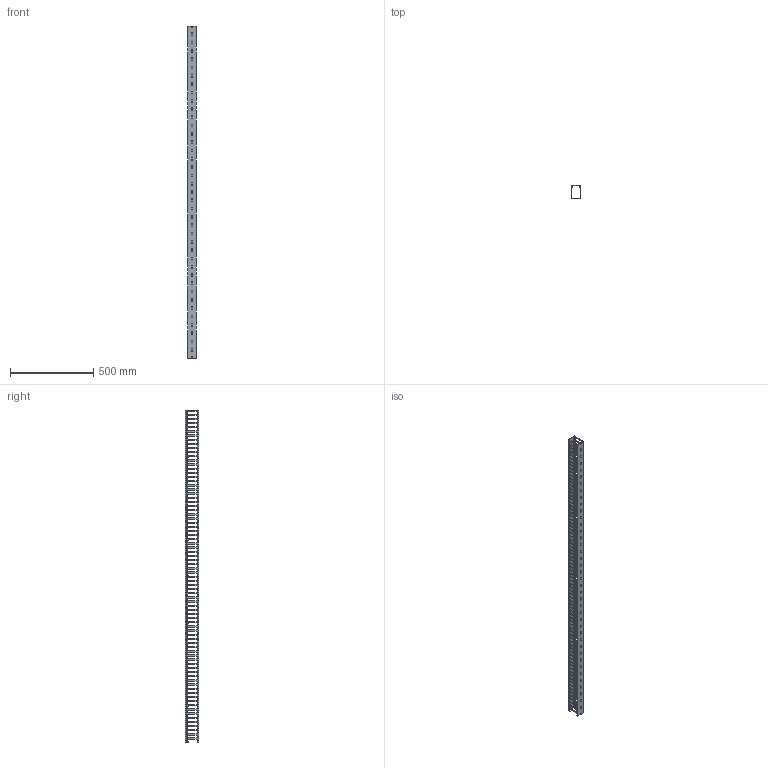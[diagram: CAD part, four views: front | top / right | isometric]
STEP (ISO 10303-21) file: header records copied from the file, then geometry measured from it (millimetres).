
FILE_DESCRIPTION (( 'STEP AP214' ), '1' );
FILE_NAME ('KD-58-20-LL.STEP', '2020-02-19T00:34:42', ( '' ), ( '' ), 'SwSTEP 2.0', 'SolidWorks 2018', '' );
FILE_SCHEMA (( 'AUTOMOTIVE_DESIGN' ));
Length unit declared in the file: millimetre
Products named in the file (3): KD-56-20-cover; KD-58-20-LL; KD-58-20-LL-body
Assembly tree (2 placements, depth 2):
  KD-58-20-LL
    KD-58-20-LL-body
    KD-56-20-cover
Bounding box: 52 x 80.17 x 2000 mm (x, y, z)
Volume: 705856.3 mm3; surface area: 907134.7 mm2
Topology: 2 solids, 2 shells, 1547 faces, 4629 edges, 3086 vertices
Faces by surface type: cylinder 797, plane 750
Entity records: 53455 total; most frequent: DIRECTION 9327, CARTESIAN_POINT 9267, ORIENTED_EDGE 9258, EDGE_CURVE 4629, AXIS2_PLACEMENT_3D 3146, VERTEX_POINT 3086, VECTOR 3035, LINE 3035
